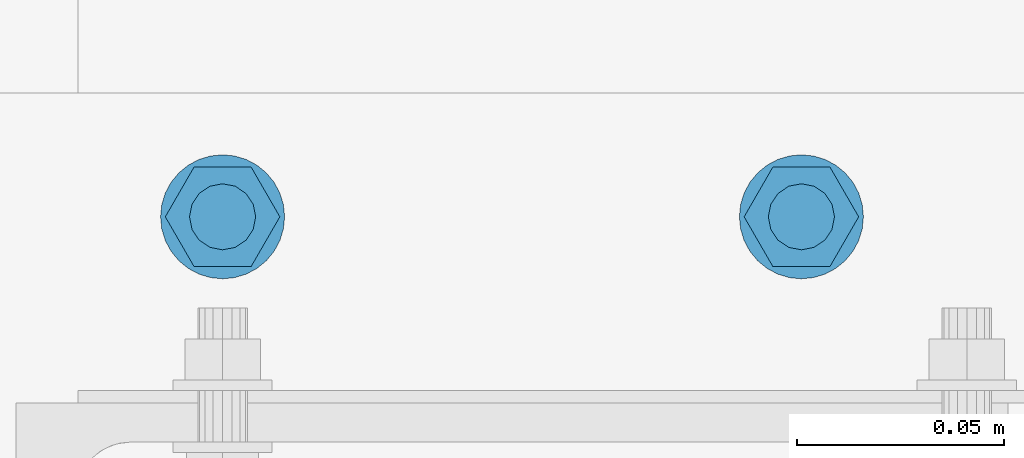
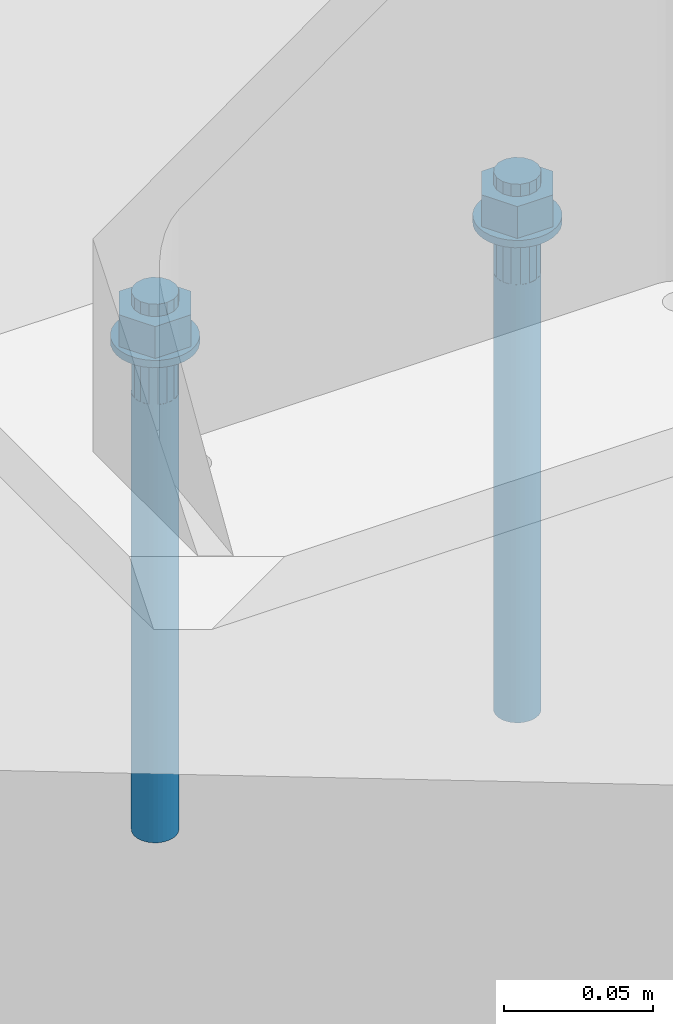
# One storey, part 319 of 825: 1 mechanical fastener.
"""IFC2X3 building model written with IfcOpenShell, lengths in millimetres."""

import ifcopenshell
import ifcopenshell.guid

model = None  # the IFC model being written
_history = None  # IfcOwnerHistory: only IFC2X3 demands one
_inside = {}  # id of a spatial element -> (the spatial element, [elements in it])
_under = {}  # id of a project, library or spatial element -> (it, [spatial elements below it])
_declared = {}  # id of a project -> (the project, [libraries it declares])
_typed = {}  # id of a type object -> (the type object, [elements of that type])
_made_of = {}  # id of a material, layer set ... -> (it, [elements and type objects made of it])


def new_model(schema):
    """Start an empty IFC model of exactly this schema.

    Asked for "IFC4X3", IfcOpenShell would pick the latest addendum, in which some entities
    have other attributes; the version numbers below select the first issue.
    IFC2X3 requires an IfcOwnerHistory on every rooted entity: one is made here for all.
    """
    global model, _history
    if schema == "IFC4X3":
        model = ifcopenshell.file(schema_version=(4, 3, 0, 0))
    else:
        model = ifcopenshell.file(schema=schema)
    _inside.clear()
    _under.clear()
    _declared.clear()
    _typed.clear()
    _made_of.clear()
    _history = None
    if model.schema == "IFC2X3":
        org = make("IfcOrganization", Name="unknown")
        user = make(
            "IfcPersonAndOrganization",
            ThePerson=make("IfcPerson", FamilyName="unknown"),
            TheOrganization=org,
        )
        app = make(
            "IfcApplication",
            ApplicationDeveloper=org,
            Version="unknown",
            ApplicationFullName="unknown",
            ApplicationIdentifier="unknown",
        )
        _history = make(
            "IfcOwnerHistory",
            OwningUser=user,
            OwningApplication=app,
            ChangeAction="ADDED",
            CreationDate=0,
        )
    return model


def make(cls, **values):
    """One entity of the class cls with the attributes given. An attribute that is None is left unset."""
    return model.create_entity(
        cls, **{name: value for name, value in values.items() if value is not None}
    )


def entity(cls, *values):
    """Any entity or typed value of the class cls, its attributes in the order of the schema. None: left unset."""
    e = model.create_entity(cls)
    for i, value in enumerate(values):
        if value is not None:
            e[i] = value
    return e


def rooted(cls, **values):
    """An entity with a GlobalId (a new one), such as an element, a storey or a relation."""
    return make(cls, GlobalId=ifcopenshell.guid.new(), OwnerHistory=_history, **values)


def si_unit(unit_type, name, prefix=None):
    """IfcSIUnit, for example si_unit("LENGTHUNIT", "METRE", prefix="MILLI")."""
    return make("IfcSIUnit", UnitType=unit_type, Prefix=prefix, Name=name)


def converted_unit(unit_type, name, factor, base, dimensions=None, offset=None):
    """IfcConversionBasedUnit, such as the inch: factor (a typed value) times the base unit."""
    return make(
        "IfcConversionBasedUnit"
        if offset is None
        else "IfcConversionBasedUnitWithOffset",
        ConversionOffset=offset,
        Dimensions=None
        if dimensions is None
        else entity("IfcDimensionalExponents", *dimensions),
        UnitType=unit_type,
        Name=name,
        ConversionFactor=make(
            "IfcMeasureWithUnit", ValueComponent=factor, UnitComponent=base
        ),
    )


def assignment(units):
    """IfcUnitAssignment: the units of a project."""
    return None if units is None else make("IfcUnitAssignment", Units=units)


def point(xyz):
    """IfcCartesianPoint."""
    return None if xyz is None else make("IfcCartesianPoint", Coordinates=xyz)


def direction(xyz):
    """IfcDirection."""
    return None if xyz is None else make("IfcDirection", DirectionRatios=xyz)


def frame(location, z_axis=None, x_axis=None):
    """IfcAxis2Placement3D, a coordinate frame: its origin and axes. An axis left out is left unset."""
    return make(
        "IfcAxis2Placement3D",
        Location=point(location),
        Axis=direction(z_axis),
        RefDirection=direction(x_axis),
    )


def origin_with_axes():
    """The frame at (0, 0, 0) with the z axis (0, 0, 1) and the x axis (1, 0, 0) written out."""
    return frame((0.0, 0.0, 0.0), z_axis=(0.0, 0.0, 1.0), x_axis=(1.0, 0.0, 0.0))


def place(relative_to, where):
    """IfcLocalPlacement: puts the frame where relative to a parent placement (None: the world)."""
    return make(
        "IfcLocalPlacement", PlacementRelTo=relative_to, RelativePlacement=where
    )


def context(
    kind, dimensions, precision=None, world=None, true_north=None, identifier=None
):
    """IfcGeometricRepresentationContext, for example the 3D "Model" context."""
    return make(
        "IfcGeometricRepresentationContext",
        ContextIdentifier=identifier,
        ContextType=kind,
        CoordinateSpaceDimension=dimensions,
        Precision=precision,
        WorldCoordinateSystem=world,
        TrueNorth=true_north,
    )


def project(units=None, contexts=None):
    """IfcProject with its units and contexts."""
    return rooted(
        "IfcProject",
        Name="project",
        RepresentationContexts=contexts,
        UnitsInContext=assignment(units),
    )


def spatial(cls, under=None, at=None, **own):
    """A site, building, storey or space (cls), placed at a placement, below another one or the project."""
    s = rooted(cls, ObjectPlacement=at, **own)
    if under is not None:
        _under.setdefault(under.id(), (under, []))[1].append(s)
    return s


def faces_of(points, faces, orient=None, outer=None):
    """IfcFace entities. A face is a list of loops; a loop is a list of indices into points, from 0.

    orient and outer hold one flag for each loop. By default every Orientation is true, the
    first loop of a face is its IfcFaceOuterBound and the others are IfcFaceBound.
    """
    made = []
    for i, loops in enumerate(faces):
        bounds = []
        for j, loop in enumerate(loops):
            is_outer = j == 0 if outer is None else outer[i][j]
            bounds.append(
                make(
                    "IfcFaceOuterBound" if is_outer else "IfcFaceBound",
                    Bound=make("IfcPolyLoop", Polygon=[points[k] for k in loop]),
                    Orientation=True if orient is None else orient[i][j],
                )
            )
        made.append(make("IfcFace", Bounds=bounds))
    return made


def faceted_brep(points, faces, orient=None, outer=None, voids=None):
    """IfcFacetedBrep: a solid bounded by flat faces; with voids (closed shells), ...WithVoids."""
    shared = [point(p) for p in points]
    hull = make("IfcClosedShell", CfsFaces=faces_of(shared, faces, orient, outer))
    if voids is None:
        return make("IfcFacetedBrep", Outer=hull)
    return make(
        "IfcFacetedBrepWithVoids",
        Outer=hull,
        Voids=[
            make(cls, CfsFaces=faces_of(shared, fs, o, b)) for cls, fs, o, b in voids
        ],
    )


def shape(context_of_items, identifier, shape_type, items):
    """IfcShapeRepresentation: the items that make up one representation, for example the "Body"."""
    return make(
        "IfcShapeRepresentation",
        ContextOfItems=context_of_items,
        RepresentationIdentifier=identifier,
        RepresentationType=shape_type,
        Items=items,
    )


def made_of(thing, what):
    """Note that an element or type object is made of a material, layer set ...; save() writes the relation."""
    if what is not None:
        _made_of.setdefault(what.id(), (what, []))[1].append(thing)
    return thing


def element(
    cls,
    number,
    at=None,
    inside=None,
    cuts=None,
    type_object=None,
    material=None,
    context=None,
    identifier="Body",
    shape_type=None,
    held_by="IfcProductDefinitionShape",
    body=None,
    shapes=None,
    **own,
):
    """One element of the class cls, such as IfcWall. Its Tag is "e" and its number.

    at: its placement. inside: the storey or other place that contains it. cuts: it is an
    opening in that element (IfcRelVoidsElement). A single representation is given by context,
    identifier, shape_type and body (its items); several are given by shapes. held_by: the class
    of the entity that holds the representations. save() writes the other relations.
    """
    e = rooted(cls, Tag="e%d" % number, ObjectPlacement=at, **own)
    if body is not None:
        shapes = [shape(context, identifier, shape_type, body)]
    if shapes is not None:
        e.Representation = make(held_by, Representations=shapes)
    if inside is not None:
        _inside.setdefault(inside.id(), (inside, []))[1].append(e)
    if cuts is not None:
        rooted(
            "IfcRelVoidsElement", RelatingBuildingElement=cuts, RelatedOpeningElement=e
        )
    if type_object is not None:
        _typed.setdefault(type_object.id(), (type_object, []))[1].append(e)
    return made_of(e, material)


def aggregate(whole, parts):
    """IfcRelAggregates: a whole, such as a stair, and the parts it consists of."""
    return rooted("IfcRelAggregates", RelatingObject=whole, RelatedObjects=parts)


def save(model, path):
    """Write the relations noted so far, then the file.

    IfcRelAggregates (storeys below a building ...), IfcRelContainedInSpatialStructure (elements
    in a storey), IfcRelDefinesByType, IfcRelAssociatesMaterial and IfcRelDeclares: one each for
    every whole, place, type object, material and project.
    """
    for whole, parts in _under.values():
        aggregate(whole, parts)
    for where, things in _inside.values():
        rooted(
            "IfcRelContainedInSpatialStructure",
            RelatedElements=things,
            RelatingStructure=where,
        )
    for kind, things in _typed.values():
        rooted("IfcRelDefinesByType", RelatedObjects=things, RelatingType=kind)
    for what, things in _made_of.values():
        rooted("IfcRelAssociatesMaterial", RelatedObjects=things, RelatingMaterial=what)
    for by, libraries in _declared.values():
        rooted("IfcRelDeclares", RelatingContext=by, RelatedDefinitions=libraries)
    model.write(path)


model = new_model("IFC2X3")

# Units and contexts
model_context = context("Model", 3, precision=1e-09, world=origin_with_axes())
ifc_project = project(units=[si_unit("LENGTHUNIT", "METRE", prefix="MILLI"), si_unit("AREAUNIT", "SQUARE_METRE"), si_unit("VOLUMEUNIT", "CUBIC_METRE"), converted_unit("PLANEANGLEUNIT", "DEGREE", entity("IfcPlaneAngleMeasure", 0.01745329), si_unit("PLANEANGLEUNIT", "RADIAN"), dimensions=[0, 0, 0, 0, 0, 0, 0])], contexts=[model_context])

# Site, building, storey
site_placement = place(None, origin_with_axes())
site = spatial("IfcSite", under=ifc_project, at=site_placement, Name="Cnopf'sche Kinderklinik", CompositionType="ELEMENT")
building_placement = place(site_placement, origin_with_axes())
building = spatial("IfcBuilding", under=site, at=building_placement, Name="Struktur 1", CompositionType="ELEMENT")
storey_placement = place(building_placement, origin_with_axes())
storey = spatial("IfcBuildingStorey", under=building, at=storey_placement, Name="Default Storey", CompositionType="ELEMENT", Elevation=0.0)

# Mechanical fastener
mechanical_fastener_placement = place(None, origin_with_axes())
element("IfcMechanicalFastener", 1, at=mechanical_fastener_placement, inside=storey, ObjectType="Anchor_Bolt", NominalDiameter=16.0, NominalLength=220.0, context=model_context, shape_type="Brep", body=[
    faceted_brep([(5271.713402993, 6176.736971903, 53.0), (5271.713402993, 6176.736971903, 50.0), (5274.639757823, 6177.025192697, 50.0), (5274.639757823, 6177.025192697, 53.0), (5277.453654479, 6177.878778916, 50.0), (5277.453654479, 6177.878778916, 53.0), (5280.046956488, 6179.264927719, 50.0), (5280.046956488, 6179.264927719, 53.0), (5282.320004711, 6181.130370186, 50.0), (5282.320004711, 6181.130370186, 53.0), (5284.185447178, 6183.403418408, 50.0), (5284.185447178, 6183.403418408, 53.0), (5285.571595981, 6185.996720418, 50.0), (5285.571595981, 6185.996720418, 53.0), (5286.425182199, 6188.810617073, 50.0), (5286.425182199, 6188.810617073, 53.0), (5286.713402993, 6191.736971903, 50.0), (5286.713402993, 6191.736971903, 53.0), (5286.425182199, 6194.663326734, 50.0), (5286.425182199, 6194.663326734, 53.0), (5285.571595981, 6197.477223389, 50.0), (5285.571595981, 6197.477223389, 53.0), (5284.185447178, 6200.070525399, 50.0), (5284.185447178, 6200.070525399, 53.0), (5282.320004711, 6202.343573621, 50.0), (5282.320004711, 6202.343573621, 53.0), (5280.046956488, 6204.209016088, 50.0), (5280.046956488, 6204.209016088, 53.0), (5277.453654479, 6205.595164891, 50.0), (5277.453654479, 6205.595164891, 53.0), (5274.639757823, 6206.448751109, 50.0), (5274.639757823, 6206.448751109, 53.0), (5271.713402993, 6206.736971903, 50.0), (5271.713402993, 6206.736971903, 53.0), (5268.787048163, 6206.448751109, 50.0), (5268.787048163, 6206.448751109, 53.0), (5265.973151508, 6205.595164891, 50.0), (5265.973151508, 6205.595164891, 53.0), (5263.379849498, 6204.209016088, 50.0), (5263.379849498, 6204.209016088, 53.0), (5261.106801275, 6202.343573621, 50.0), (5261.106801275, 6202.343573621, 53.0), (5259.241358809, 6200.070525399, 50.0), (5259.241358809, 6200.070525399, 53.0), (5257.855210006, 6197.477223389, 50.0), (5257.855210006, 6197.477223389, 53.0), (5257.001623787, 6194.663326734, 50.0), (5257.001623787, 6194.663326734, 53.0), (5256.713402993, 6191.736971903, 50.0), (5256.713402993, 6191.736971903, 53.0), (5257.001623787, 6188.810617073, 50.0), (5257.001623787, 6188.810617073, 53.0), (5257.855210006, 6185.996720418, 50.0), (5257.855210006, 6185.996720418, 53.0), (5259.241358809, 6183.403418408, 50.0), (5259.241358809, 6183.403418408, 53.0), (5261.106801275, 6181.130370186, 50.0), (5261.106801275, 6181.130370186, 53.0), (5263.379849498, 6179.264927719, 50.0), (5263.379849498, 6179.264927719, 53.0), (5265.973151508, 6177.878778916, 50.0), (5265.973151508, 6177.878778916, 53.0), (5268.787048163, 6177.025192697, 50.0), (5268.787048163, 6177.025192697, 53.0)], [[[0, 1, 2, 3]], [[3, 2, 4, 5]], [[5, 4, 6, 7]], [[7, 6, 8, 9]], [[9, 8, 10, 11]], [[11, 10, 12, 13]], [[13, 12, 14, 15]], [[15, 14, 16, 17]], [[17, 16, 18, 19]], [[19, 18, 20, 21]], [[21, 20, 22, 23]], [[23, 22, 24, 25]], [[25, 24, 26, 27]], [[27, 26, 28, 29]], [[29, 28, 30, 31]], [[31, 30, 32, 33]], [[33, 32, 34, 35]], [[35, 34, 36, 37]], [[37, 36, 38, 39]], [[39, 38, 40, 41]], [[41, 40, 42, 43]], [[43, 42, 44, 45]], [[45, 44, 46, 47]], [[47, 46, 48, 49]], [[49, 48, 50, 51]], [[51, 50, 52, 53]], [[53, 52, 54, 55]], [[55, 54, 56, 57]], [[57, 56, 58, 59]], [[59, 58, 60, 61]], [[61, 60, 62, 63]], [[63, 62, 1, 0]], [[0, 3, 5, 7, 9, 11, 13, 15, 17, 19, 21, 23, 25, 27, 29, 31, 33, 35, 37, 39, 41, 43, 45, 47, 49, 51, 53, 55, 57, 59, 61, 63]], [[1, 62, 60, 58, 56, 54, 52, 50, 48, 46, 44, 42, 40, 38, 36, 34, 32, 30, 28, 26, 24, 22, 20, 18, 16, 14, 12, 10, 8, 6, 4, 2]]]),
    faceted_brep([(5411.713402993, 6176.736971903, 53.0), (5411.713402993, 6176.736971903, 50.0), (5414.639757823, 6177.025192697, 50.0), (5414.639757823, 6177.025192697, 53.0), (5417.453654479, 6177.878778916, 50.0), (5417.453654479, 6177.878778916, 53.0), (5420.046956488, 6179.264927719, 50.0), (5420.046956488, 6179.264927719, 53.0), (5422.320004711, 6181.130370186, 50.0), (5422.320004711, 6181.130370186, 53.0), (5424.185447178, 6183.403418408, 50.0), (5424.185447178, 6183.403418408, 53.0), (5425.571595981, 6185.996720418, 50.0), (5425.571595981, 6185.996720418, 53.0), (5426.425182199, 6188.810617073, 50.0), (5426.425182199, 6188.810617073, 53.0), (5426.713402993, 6191.736971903, 50.0), (5426.713402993, 6191.736971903, 53.0), (5426.425182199, 6194.663326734, 50.0), (5426.425182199, 6194.663326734, 53.0), (5425.571595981, 6197.477223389, 50.0), (5425.571595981, 6197.477223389, 53.0), (5424.185447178, 6200.070525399, 50.0), (5424.185447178, 6200.070525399, 53.0), (5422.320004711, 6202.343573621, 50.0), (5422.320004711, 6202.343573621, 53.0), (5420.046956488, 6204.209016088, 50.0), (5420.046956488, 6204.209016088, 53.0), (5417.453654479, 6205.595164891, 50.0), (5417.453654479, 6205.595164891, 53.0), (5414.639757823, 6206.448751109, 50.0), (5414.639757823, 6206.448751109, 53.0), (5411.713402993, 6206.736971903, 50.0), (5411.713402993, 6206.736971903, 53.0), (5408.787048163, 6206.448751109, 50.0), (5408.787048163, 6206.448751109, 53.0), (5405.973151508, 6205.595164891, 50.0), (5405.973151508, 6205.595164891, 53.0), (5403.379849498, 6204.209016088, 50.0), (5403.379849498, 6204.209016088, 53.0), (5401.106801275, 6202.343573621, 50.0), (5401.106801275, 6202.343573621, 53.0), (5399.241358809, 6200.070525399, 50.0), (5399.241358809, 6200.070525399, 53.0), (5397.855210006, 6197.477223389, 50.0), (5397.855210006, 6197.477223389, 53.0), (5397.001623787, 6194.663326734, 50.0), (5397.001623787, 6194.663326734, 53.0), (5396.713402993, 6191.736971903, 50.0), (5396.713402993, 6191.736971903, 53.0), (5397.001623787, 6188.810617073, 50.0), (5397.001623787, 6188.810617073, 53.0), (5397.855210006, 6185.996720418, 50.0), (5397.855210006, 6185.996720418, 53.0), (5399.241358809, 6183.403418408, 50.0), (5399.241358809, 6183.403418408, 53.0), (5401.106801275, 6181.130370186, 50.0), (5401.106801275, 6181.130370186, 53.0), (5403.379849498, 6179.264927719, 50.0), (5403.379849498, 6179.264927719, 53.0), (5405.973151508, 6177.878778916, 50.0), (5405.973151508, 6177.878778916, 53.0), (5408.787048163, 6177.025192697, 50.0), (5408.787048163, 6177.025192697, 53.0)], [[[0, 1, 2, 3]], [[3, 2, 4, 5]], [[5, 4, 6, 7]], [[7, 6, 8, 9]], [[9, 8, 10, 11]], [[11, 10, 12, 13]], [[13, 12, 14, 15]], [[15, 14, 16, 17]], [[17, 16, 18, 19]], [[19, 18, 20, 21]], [[21, 20, 22, 23]], [[23, 22, 24, 25]], [[25, 24, 26, 27]], [[27, 26, 28, 29]], [[29, 28, 30, 31]], [[31, 30, 32, 33]], [[33, 32, 34, 35]], [[35, 34, 36, 37]], [[37, 36, 38, 39]], [[39, 38, 40, 41]], [[41, 40, 42, 43]], [[43, 42, 44, 45]], [[45, 44, 46, 47]], [[47, 46, 48, 49]], [[49, 48, 50, 51]], [[51, 50, 52, 53]], [[53, 52, 54, 55]], [[55, 54, 56, 57]], [[57, 56, 58, 59]], [[59, 58, 60, 61]], [[61, 60, 62, 63]], [[63, 62, 1, 0]], [[0, 3, 5, 7, 9, 11, 13, 15, 17, 19, 21, 23, 25, 27, 29, 31, 33, 35, 37, 39, 41, 43, 45, 47, 49, 51, 53, 55, 57, 59, 61, 63]], [[1, 62, 60, 58, 56, 54, 52, 50, 48, 46, 44, 42, 40, 38, 36, 34, 32, 30, 28, 26, 24, 22, 20, 18, 16, 14, 12, 10, 8, 6, 4, 2]]]),
    faceted_brep([(5278.638402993, 6203.731423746, 53.0), (5278.638402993, 6203.731423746, 66.0), (5285.563402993, 6191.736971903, 66.0), (5285.563402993, 6191.736971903, 53.0), (5278.638402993, 6179.742520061, 66.0), (5278.638402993, 6179.742520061, 53.0), (5264.788402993, 6179.742520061, 66.0), (5264.788402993, 6179.742520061, 53.0), (5257.863402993, 6191.736971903, 66.0), (5257.863402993, 6191.736971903, 53.0), (5264.788402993, 6203.731423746, 66.0), (5264.788402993, 6203.731423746, 53.0)], [[[0, 1, 2, 3]], [[3, 2, 4, 5]], [[5, 4, 6, 7]], [[7, 6, 8, 9]], [[9, 8, 10, 11]], [[11, 10, 1, 0]], [[4, 2, 1, 10, 8, 6]], [[0, 3, 5, 7, 9, 11]]]),
    faceted_brep([(5418.638402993, 6203.731423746, 53.0), (5418.638402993, 6203.731423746, 66.0), (5425.563402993, 6191.736971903, 66.0), (5425.563402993, 6191.736971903, 53.0), (5418.638402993, 6179.742520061, 66.0), (5418.638402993, 6179.742520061, 53.0), (5404.788402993, 6179.742520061, 66.0), (5404.788402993, 6179.742520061, 53.0), (5397.863402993, 6191.736971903, 66.0), (5397.863402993, 6191.736971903, 53.0), (5404.788402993, 6203.731423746, 66.0), (5404.788402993, 6203.731423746, 53.0)], [[[0, 1, 2, 3]], [[3, 2, 4, 5]], [[5, 4, 6, 7]], [[7, 6, 8, 9]], [[9, 8, 10, 11]], [[11, 10, 1, 0]], [[4, 2, 1, 10, 8, 6]], [[0, 3, 5, 7, 9, 11]]]),
    faceted_brep([(5271.713402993, 6183.736971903, 71.0), (5271.713402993, 6183.736971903, 66.0), (5274.774870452, 6184.345935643, 66.0), (5274.774870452, 6184.345935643, 71.0), (5277.370257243, 6186.080117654, 66.0), (5277.370257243, 6186.080117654, 71.0), (5279.104439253, 6188.675504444, 66.0), (5279.104439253, 6188.675504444, 71.0), (5279.713402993, 6191.736971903, 66.0), (5279.713402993, 6191.736971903, 71.0), (5279.104439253, 6194.798439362, 66.0), (5279.104439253, 6194.798439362, 71.0), (5277.370257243, 6197.393826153, 66.0), (5277.370257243, 6197.393826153, 71.0), (5274.774870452, 6199.128008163, 66.0), (5274.774870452, 6199.128008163, 71.0), (5271.713402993, 6199.736971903, 66.0), (5271.713402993, 6199.736971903, 71.0), (5268.651935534, 6199.128008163, 66.0), (5268.651935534, 6199.128008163, 71.0), (5266.056548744, 6197.393826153, 66.0), (5266.056548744, 6197.393826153, 71.0), (5264.322366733, 6194.798439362, 66.0), (5264.322366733, 6194.798439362, 71.0), (5263.713402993, 6191.736971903, 66.0), (5263.713402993, 6191.736971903, 71.0), (5264.322366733, 6188.675504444, 66.0), (5264.322366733, 6188.675504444, 71.0), (5266.056548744, 6186.080117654, 66.0), (5266.056548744, 6186.080117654, 71.0), (5268.651935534, 6184.345935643, 66.0), (5268.651935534, 6184.345935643, 71.0)], [[[0, 1, 2, 3]], [[3, 2, 4, 5]], [[5, 4, 6, 7]], [[7, 6, 8, 9]], [[9, 8, 10, 11]], [[11, 10, 12, 13]], [[13, 12, 14, 15]], [[15, 14, 16, 17]], [[17, 16, 18, 19]], [[19, 18, 20, 21]], [[21, 20, 22, 23]], [[23, 22, 24, 25]], [[25, 24, 26, 27]], [[27, 26, 28, 29]], [[29, 28, 30, 31]], [[31, 30, 1, 0]], [[0, 3, 5, 7, 9, 11, 13, 15, 17, 19, 21, 23, 25, 27, 29, 31]], [[1, 30, 28, 26, 24, 22, 20, 18, 16, 14, 12, 10, 8, 6, 4, 2]]]),
    faceted_brep([(5411.713402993, 6183.736971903, 71.0), (5411.713402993, 6183.736971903, 66.0), (5414.774870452, 6184.345935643, 66.0), (5414.774870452, 6184.345935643, 71.0), (5417.370257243, 6186.080117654, 66.0), (5417.370257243, 6186.080117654, 71.0), (5419.104439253, 6188.675504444, 66.0), (5419.104439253, 6188.675504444, 71.0), (5419.713402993, 6191.736971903, 66.0), (5419.713402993, 6191.736971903, 71.0), (5419.104439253, 6194.798439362, 66.0), (5419.104439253, 6194.798439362, 71.0), (5417.370257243, 6197.393826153, 66.0), (5417.370257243, 6197.393826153, 71.0), (5414.774870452, 6199.128008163, 66.0), (5414.774870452, 6199.128008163, 71.0), (5411.713402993, 6199.736971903, 66.0), (5411.713402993, 6199.736971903, 71.0), (5408.651935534, 6199.128008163, 66.0), (5408.651935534, 6199.128008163, 71.0), (5406.056548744, 6197.393826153, 66.0), (5406.056548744, 6197.393826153, 71.0), (5404.322366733, 6194.798439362, 66.0), (5404.322366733, 6194.798439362, 71.0), (5403.713402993, 6191.736971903, 66.0), (5403.713402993, 6191.736971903, 71.0), (5404.322366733, 6188.675504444, 66.0), (5404.322366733, 6188.675504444, 71.0), (5406.056548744, 6186.080117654, 66.0), (5406.056548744, 6186.080117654, 71.0), (5408.651935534, 6184.345935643, 66.0), (5408.651935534, 6184.345935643, 71.0)], [[[0, 1, 2, 3]], [[3, 2, 4, 5]], [[5, 4, 6, 7]], [[7, 6, 8, 9]], [[9, 8, 10, 11]], [[11, 10, 12, 13]], [[13, 12, 14, 15]], [[15, 14, 16, 17]], [[17, 16, 18, 19]], [[19, 18, 20, 21]], [[21, 20, 22, 23]], [[23, 22, 24, 25]], [[25, 24, 26, 27]], [[27, 26, 28, 29]], [[29, 28, 30, 31]], [[31, 30, 1, 0]], [[0, 3, 5, 7, 9, 11, 13, 15, 17, 19, 21, 23, 25, 27, 29, 31]], [[1, 30, 28, 26, 24, 22, 20, 18, 16, 14, 12, 10, 8, 6, 4, 2]]]),
    faceted_brep([(5271.713402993, 6183.736971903, 50.0), (5271.713402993, 6183.736971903, 30.0), (5274.774870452, 6184.345935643, 30.0), (5274.774870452, 6184.345935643, 50.0), (5277.370257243, 6186.080117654, 30.0), (5277.370257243, 6186.080117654, 50.0), (5279.104439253, 6188.675504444, 30.0), (5279.104439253, 6188.675504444, 50.0), (5279.713402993, 6191.736971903, 30.0), (5279.713402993, 6191.736971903, 50.0), (5279.104439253, 6194.798439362, 30.0), (5279.104439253, 6194.798439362, 50.0), (5277.370257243, 6197.393826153, 30.0), (5277.370257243, 6197.393826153, 50.0), (5274.774870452, 6199.128008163, 30.0), (5274.774870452, 6199.128008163, 50.0), (5271.713402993, 6199.736971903, 30.0), (5271.713402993, 6199.736971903, 50.0), (5268.651935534, 6199.128008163, 30.0), (5268.651935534, 6199.128008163, 50.0), (5266.056548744, 6197.393826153, 30.0), (5266.056548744, 6197.393826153, 50.0), (5264.322366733, 6194.798439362, 30.0), (5264.322366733, 6194.798439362, 50.0), (5263.713402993, 6191.736971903, 30.0), (5263.713402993, 6191.736971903, 50.0), (5264.322366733, 6188.675504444, 30.0), (5264.322366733, 6188.675504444, 50.0), (5266.056548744, 6186.080117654, 30.0), (5266.056548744, 6186.080117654, 50.0), (5268.651935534, 6184.345935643, 30.0), (5268.651935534, 6184.345935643, 50.0)], [[[0, 1, 2, 3]], [[3, 2, 4, 5]], [[5, 4, 6, 7]], [[7, 6, 8, 9]], [[9, 8, 10, 11]], [[11, 10, 12, 13]], [[13, 12, 14, 15]], [[15, 14, 16, 17]], [[17, 16, 18, 19]], [[19, 18, 20, 21]], [[21, 20, 22, 23]], [[23, 22, 24, 25]], [[25, 24, 26, 27]], [[27, 26, 28, 29]], [[29, 28, 30, 31]], [[31, 30, 1, 0]], [[0, 3, 5, 7, 9, 11, 13, 15, 17, 19, 21, 23, 25, 27, 29, 31]], [[1, 30, 28, 26, 24, 22, 20, 18, 16, 14, 12, 10, 8, 6, 4, 2]]]),
    faceted_brep([(5411.713402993, 6183.736971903, 50.0), (5411.713402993, 6183.736971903, 30.0), (5414.774870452, 6184.345935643, 30.0), (5414.774870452, 6184.345935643, 50.0), (5417.370257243, 6186.080117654, 30.0), (5417.370257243, 6186.080117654, 50.0), (5419.104439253, 6188.675504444, 30.0), (5419.104439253, 6188.675504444, 50.0), (5419.713402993, 6191.736971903, 30.0), (5419.713402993, 6191.736971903, 50.0), (5419.104439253, 6194.798439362, 30.0), (5419.104439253, 6194.798439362, 50.0), (5417.370257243, 6197.393826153, 30.0), (5417.370257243, 6197.393826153, 50.0), (5414.774870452, 6199.128008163, 30.0), (5414.774870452, 6199.128008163, 50.0), (5411.713402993, 6199.736971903, 30.0), (5411.713402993, 6199.736971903, 50.0), (5408.651935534, 6199.128008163, 30.0), (5408.651935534, 6199.128008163, 50.0), (5406.056548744, 6197.393826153, 30.0), (5406.056548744, 6197.393826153, 50.0), (5404.322366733, 6194.798439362, 30.0), (5404.322366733, 6194.798439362, 50.0), (5403.713402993, 6191.736971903, 30.0), (5403.713402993, 6191.736971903, 50.0), (5404.322366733, 6188.675504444, 30.0), (5404.322366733, 6188.675504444, 50.0), (5406.056548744, 6186.080117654, 30.0), (5406.056548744, 6186.080117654, 50.0), (5408.651935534, 6184.345935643, 30.0), (5408.651935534, 6184.345935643, 50.0)], [[[0, 1, 2, 3]], [[3, 2, 4, 5]], [[5, 4, 6, 7]], [[7, 6, 8, 9]], [[9, 8, 10, 11]], [[11, 10, 12, 13]], [[13, 12, 14, 15]], [[15, 14, 16, 17]], [[17, 16, 18, 19]], [[19, 18, 20, 21]], [[21, 20, 22, 23]], [[23, 22, 24, 25]], [[25, 24, 26, 27]], [[27, 26, 28, 29]], [[29, 28, 30, 31]], [[31, 30, 1, 0]], [[0, 3, 5, 7, 9, 11, 13, 15, 17, 19, 21, 23, 25, 27, 29, 31]], [[1, 30, 28, 26, 24, 22, 20, 18, 16, 14, 12, 10, 8, 6, 4, 2]]]),
    faceted_brep([(5271.713402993, 6183.736971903, 30.0), (5271.713402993, 6183.736971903, -149.0), (5273.274125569, 6183.89068966, -149.0), (5273.274125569, 6183.89068966, 30.0), (5274.774870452, 6184.345935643, -149.0), (5274.774870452, 6184.345935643, 30.0), (5276.157964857, 6185.085215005, -149.0), (5276.157964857, 6185.085215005, 30.0), (5277.370257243, 6186.080117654, -149.0), (5277.370257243, 6186.080117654, 30.0), (5278.365159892, 6187.292410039, -149.0), (5278.365159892, 6187.292410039, 30.0), (5279.104439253, 6188.675504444, -149.0), (5279.104439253, 6188.675504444, 30.0), (5279.559685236, 6190.176249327, -149.0), (5279.559685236, 6190.176249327, 30.0), (5279.713402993, 6191.736971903, -149.0), (5279.713402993, 6191.736971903, 30.0), (5279.559685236, 6193.297694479, -149.0), (5279.559685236, 6193.297694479, 30.0), (5279.104439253, 6194.798439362, -149.0), (5279.104439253, 6194.798439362, 30.0), (5278.365159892, 6196.181533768, -149.0), (5278.365159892, 6196.181533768, 30.0), (5277.370257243, 6197.393826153, -149.0), (5277.370257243, 6197.393826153, 30.0), (5276.157964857, 6198.388728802, -149.0), (5276.157964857, 6198.388728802, 30.0), (5274.774870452, 6199.128008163, -149.0), (5274.774870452, 6199.128008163, 30.0), (5273.274125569, 6199.583254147, -149.0), (5273.274125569, 6199.583254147, 30.0), (5271.713402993, 6199.736971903, -149.0), (5271.713402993, 6199.736971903, 30.0), (5270.152680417, 6199.583254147, -149.0), (5270.152680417, 6199.583254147, 30.0), (5268.651935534, 6199.128008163, -149.0), (5268.651935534, 6199.128008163, 30.0), (5267.268841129, 6198.388728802, -149.0), (5267.268841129, 6198.388728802, 30.0), (5266.056548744, 6197.393826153, -149.0), (5266.056548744, 6197.393826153, 30.0), (5265.061646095, 6196.181533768, -149.0), (5265.061646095, 6196.181533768, 30.0), (5264.322366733, 6194.798439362, -149.0), (5264.322366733, 6194.798439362, 30.0), (5263.86712075, 6193.297694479, -149.0), (5263.86712075, 6193.297694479, 30.0), (5263.713402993, 6191.736971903, -149.0), (5263.713402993, 6191.736971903, 30.0), (5263.86712075, 6190.176249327, -149.0), (5263.86712075, 6190.176249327, 30.0), (5264.322366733, 6188.675504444, -149.0), (5264.322366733, 6188.675504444, 30.0), (5265.061646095, 6187.292410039, -149.0), (5265.061646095, 6187.292410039, 30.0), (5266.056548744, 6186.080117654, -149.0), (5266.056548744, 6186.080117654, 30.0), (5267.268841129, 6185.085215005, -149.0), (5267.268841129, 6185.085215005, 30.0), (5268.651935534, 6184.345935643, -149.0), (5268.651935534, 6184.345935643, 30.0), (5270.152680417, 6183.89068966, -149.0), (5270.152680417, 6183.89068966, 30.0)], [[[0, 1, 2, 3]], [[3, 2, 4, 5]], [[5, 4, 6, 7]], [[7, 6, 8, 9]], [[9, 8, 10, 11]], [[11, 10, 12, 13]], [[13, 12, 14, 15]], [[15, 14, 16, 17]], [[17, 16, 18, 19]], [[19, 18, 20, 21]], [[21, 20, 22, 23]], [[23, 22, 24, 25]], [[25, 24, 26, 27]], [[27, 26, 28, 29]], [[29, 28, 30, 31]], [[31, 30, 32, 33]], [[33, 32, 34, 35]], [[35, 34, 36, 37]], [[37, 36, 38, 39]], [[39, 38, 40, 41]], [[41, 40, 42, 43]], [[43, 42, 44, 45]], [[45, 44, 46, 47]], [[47, 46, 48, 49]], [[49, 48, 50, 51]], [[51, 50, 52, 53]], [[53, 52, 54, 55]], [[55, 54, 56, 57]], [[57, 56, 58, 59]], [[59, 58, 60, 61]], [[61, 60, 62, 63]], [[63, 62, 1, 0]], [[0, 3, 5, 7, 9, 11, 13, 15, 17, 19, 21, 23, 25, 27, 29, 31, 33, 35, 37, 39, 41, 43, 45, 47, 49, 51, 53, 55, 57, 59, 61, 63]], [[1, 62, 60, 58, 56, 54, 52, 50, 48, 46, 44, 42, 40, 38, 36, 34, 32, 30, 28, 26, 24, 22, 20, 18, 16, 14, 12, 10, 8, 6, 4, 2]]]),
    faceted_brep([(5411.713402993, 6183.736971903, 30.0), (5411.713402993, 6183.736971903, -149.0), (5413.274125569, 6183.89068966, -149.0), (5413.274125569, 6183.89068966, 30.0), (5414.774870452, 6184.345935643, -149.0), (5414.774870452, 6184.345935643, 30.0), (5416.157964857, 6185.085215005, -149.0), (5416.157964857, 6185.085215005, 30.0), (5417.370257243, 6186.080117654, -149.0), (5417.370257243, 6186.080117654, 30.0), (5418.365159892, 6187.292410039, -149.0), (5418.365159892, 6187.292410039, 30.0), (5419.104439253, 6188.675504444, -149.0), (5419.104439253, 6188.675504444, 30.0), (5419.559685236, 6190.176249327, -149.0), (5419.559685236, 6190.176249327, 30.0), (5419.713402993, 6191.736971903, -149.0), (5419.713402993, 6191.736971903, 30.0), (5419.559685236, 6193.297694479, -149.0), (5419.559685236, 6193.297694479, 30.0), (5419.104439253, 6194.798439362, -149.0), (5419.104439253, 6194.798439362, 30.0), (5418.365159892, 6196.181533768, -149.0), (5418.365159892, 6196.181533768, 30.0), (5417.370257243, 6197.393826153, -149.0), (5417.370257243, 6197.393826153, 30.0), (5416.157964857, 6198.388728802, -149.0), (5416.157964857, 6198.388728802, 30.0), (5414.774870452, 6199.128008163, -149.0), (5414.774870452, 6199.128008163, 30.0), (5413.274125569, 6199.583254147, -149.0), (5413.274125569, 6199.583254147, 30.0), (5411.713402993, 6199.736971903, -149.0), (5411.713402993, 6199.736971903, 30.0), (5410.152680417, 6199.583254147, -149.0), (5410.152680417, 6199.583254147, 30.0), (5408.651935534, 6199.128008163, -149.0), (5408.651935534, 6199.128008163, 30.0), (5407.268841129, 6198.388728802, -149.0), (5407.268841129, 6198.388728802, 30.0), (5406.056548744, 6197.393826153, -149.0), (5406.056548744, 6197.393826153, 30.0), (5405.061646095, 6196.181533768, -149.0), (5405.061646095, 6196.181533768, 30.0), (5404.322366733, 6194.798439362, -149.0), (5404.322366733, 6194.798439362, 30.0), (5403.86712075, 6193.297694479, -149.0), (5403.86712075, 6193.297694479, 30.0), (5403.713402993, 6191.736971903, -149.0), (5403.713402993, 6191.736971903, 30.0), (5403.86712075, 6190.176249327, -149.0), (5403.86712075, 6190.176249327, 30.0), (5404.322366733, 6188.675504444, -149.0), (5404.322366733, 6188.675504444, 30.0), (5405.061646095, 6187.292410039, -149.0), (5405.061646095, 6187.292410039, 30.0), (5406.056548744, 6186.080117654, -149.0), (5406.056548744, 6186.080117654, 30.0), (5407.268841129, 6185.085215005, -149.0), (5407.268841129, 6185.085215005, 30.0), (5408.651935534, 6184.345935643, -149.0), (5408.651935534, 6184.345935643, 30.0), (5410.152680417, 6183.89068966, -149.0), (5410.152680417, 6183.89068966, 30.0)], [[[0, 1, 2, 3]], [[3, 2, 4, 5]], [[5, 4, 6, 7]], [[7, 6, 8, 9]], [[9, 8, 10, 11]], [[11, 10, 12, 13]], [[13, 12, 14, 15]], [[15, 14, 16, 17]], [[17, 16, 18, 19]], [[19, 18, 20, 21]], [[21, 20, 22, 23]], [[23, 22, 24, 25]], [[25, 24, 26, 27]], [[27, 26, 28, 29]], [[29, 28, 30, 31]], [[31, 30, 32, 33]], [[33, 32, 34, 35]], [[35, 34, 36, 37]], [[37, 36, 38, 39]], [[39, 38, 40, 41]], [[41, 40, 42, 43]], [[43, 42, 44, 45]], [[45, 44, 46, 47]], [[47, 46, 48, 49]], [[49, 48, 50, 51]], [[51, 50, 52, 53]], [[53, 52, 54, 55]], [[55, 54, 56, 57]], [[57, 56, 58, 59]], [[59, 58, 60, 61]], [[61, 60, 62, 63]], [[63, 62, 1, 0]], [[0, 3, 5, 7, 9, 11, 13, 15, 17, 19, 21, 23, 25, 27, 29, 31, 33, 35, 37, 39, 41, 43, 45, 47, 49, 51, 53, 55, 57, 59, 61, 63]], [[1, 62, 60, 58, 56, 54, 52, 50, 48, 46, 44, 42, 40, 38, 36, 34, 32, 30, 28, 26, 24, 22, 20, 18, 16, 14, 12, 10, 8, 6, 4, 2]]]),
])

save(model, "model.ifc")
